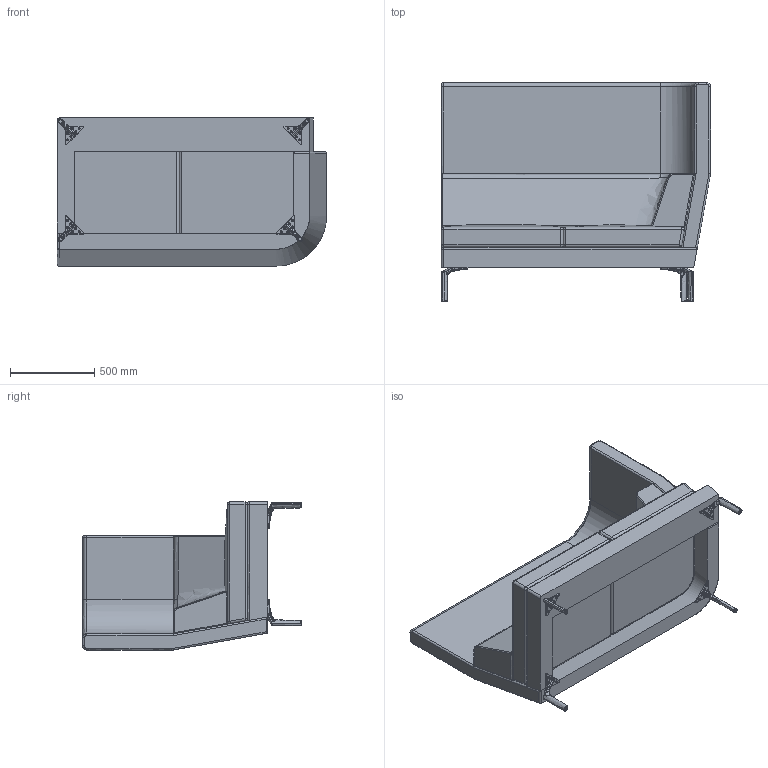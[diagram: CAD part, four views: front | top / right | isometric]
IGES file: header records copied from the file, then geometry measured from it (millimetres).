
Start section: SolidWorks IGES file using analytic representation for surfaces
Global section: file name: P:\3D CAD BLOCKS\ENTENTE\ENT7 - ENTENTE 2S SINGLE ARM\ENT - 2S - SINGLE ARM\ENT7 - ENTENTE 2S SINGLE ARM LH.IGS; native system: SolidWorks 2012; preprocessor: SolidWorks 2012; author: tom; date: 140827.101837; units: millimetre
Bounding box: 1600 x 1300 x 880 mm (x, y, z)
Surface area: 10927085.8 mm2 (no closed solid volume)
Topology: 0 solids, 0 shells, 624 faces, 7640 edges, 7614 vertices
Faces by surface type: bspline 363, revolution 261
